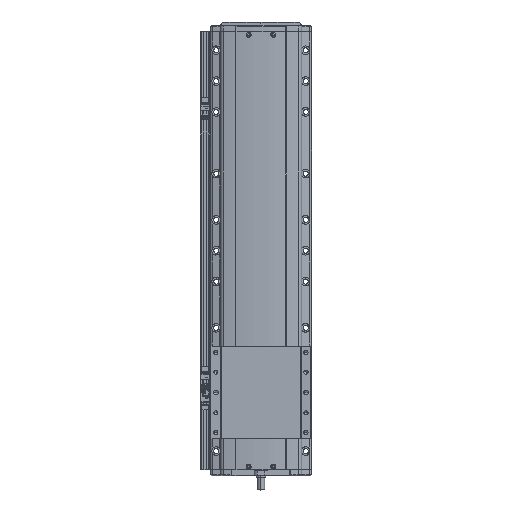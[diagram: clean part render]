
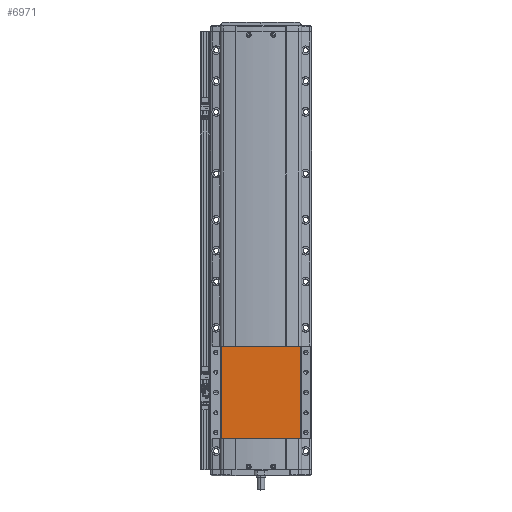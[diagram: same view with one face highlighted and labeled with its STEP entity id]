
A CAD part, top view. The second image highlights one B-rep face of the part: STEP entity #6971.
In plain terms, the highlighted planar face has unit normal (0, 0, 1).
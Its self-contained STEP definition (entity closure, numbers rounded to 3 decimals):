
#6971=ADVANCED_FACE('',(#14262),#14263,.F.);
#14262=FACE_OUTER_BOUND('',#24114,.T.);
#14263=PLANE('',#24115);
#24114=EDGE_LOOP('',(#44504,#44505,#44506,#44507));
#24115=AXIS2_PLACEMENT_3D('',#44508,#44509,#44510);
#44504=ORIENTED_EDGE('',*,*,#55413,.F.);
#44505=ORIENTED_EDGE('',*,*,#50688,.F.);
#44506=ORIENTED_EDGE('',*,*,#50456,.F.);
#44507=ORIENTED_EDGE('',*,*,#51954,.T.);
#44508=CARTESIAN_POINT('',(-600.,147.222,51.5));
#44509=DIRECTION('',(0.,0.,-1.0));
#44510=DIRECTION('',(-1.0,0.,0.));
#50456=EDGE_CURVE('',#61601,#61603,#61604,.T.);
#50688=EDGE_CURVE('',#61603,#61976,#61979,.T.);
#51954=EDGE_CURVE('',#61601,#63902,#63904,.T.);
#55413=EDGE_CURVE('',#61976,#63902,#68245,.T.);
#61601=VERTEX_POINT('',#77323);
#61603=VERTEX_POINT('',#77325);
#61604=LINE('',#77326,#77327);
#61976=VERTEX_POINT('',#77957);
#61979=LINE('',#77961,#77962);
#63902=VERTEX_POINT('',#80748);
#63904=LINE('',#80750,#80751);
#68245=LINE('',#87150,#87151);
#77323=CARTESIAN_POINT('',(-535.624,147.222,51.5));
#77325=CARTESIAN_POINT('',(-664.376,147.222,51.5));
#77326=CARTESIAN_POINT('',(-535.624,147.222,51.5));
#77327=VECTOR('',#91758,10.0);
#77957=CARTESIAN_POINT('',(-664.376,297.222,51.5));
#77961=CARTESIAN_POINT('',(-664.376,147.222,51.5));
#77962=VECTOR('',#92087,10.0);
#80748=CARTESIAN_POINT('',(-535.624,297.222,51.5));
#80750=CARTESIAN_POINT('',(-535.624,147.222,51.5));
#80751=VECTOR('',#93722,10.0);
#87150=CARTESIAN_POINT('',(-535.624,297.222,51.5));
#87151=VECTOR('',#97171,10.0);
#91758=DIRECTION('',(-1.0,0.,0.));
#92087=DIRECTION('',(0.,1.0,0.));
#93722=DIRECTION('',(0.,1.0,0.));
#97171=DIRECTION('',(1.0,0.,0.));
